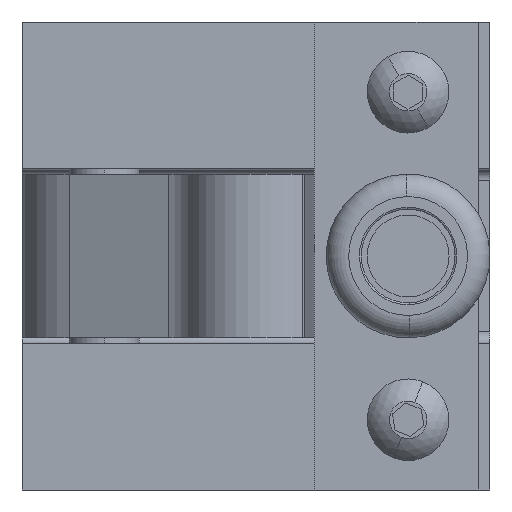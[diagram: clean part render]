
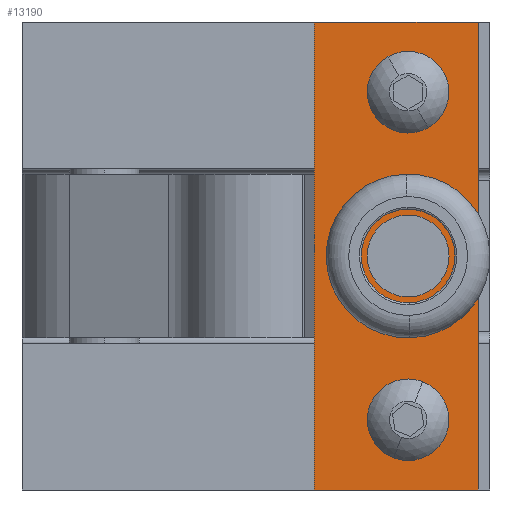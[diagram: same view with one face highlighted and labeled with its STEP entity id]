
A CAD part, left-side view. The second image highlights one B-rep face of the part: STEP entity #13190.
In plain terms, the highlighted planar face has unit normal (-1, 0, 0).
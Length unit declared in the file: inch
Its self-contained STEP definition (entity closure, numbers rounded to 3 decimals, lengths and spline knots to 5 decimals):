
#1901 = DIRECTION ( 'NONE',  ( 0., 0., 1. ) ) ;
#1977 = PLANE ( 'NONE',  #1989 ) ;
#1978 = FACE_OUTER_BOUND ( 'NONE', #13302, .T. ) ;
#1979 = FACE_BOUND ( 'NONE', #13599, .T. ) ;
#1983 = FACE_BOUND ( 'NONE', #13536, .T. ) ;
#1984 = FACE_BOUND ( 'NONE', #13254, .T. ) ;
#1986 = DIRECTION ( 'NONE',  ( -1., 0., 0. ) ) ;
#1988 = CARTESIAN_POINT ( 'NONE',  ( -0.5, 0., -1.25 ) ) ;
#1989 = AXIS2_PLACEMENT_3D ( 'NONE', #1988, #1986, #1901 ) ;
#2089 = DIRECTION ( 'NONE',  ( 0., 0., 1. ) ) ;
#2090 = VECTOR ( 'NONE', #2089, 39.37008 ) ;
#2091 = CARTESIAN_POINT ( 'NONE',  ( -0.5, 0.875, -1.25 ) ) ;
#2092 = LINE ( 'NONE', #2091, #2090 ) ;
#2103 = CARTESIAN_POINT ( 'NONE',  ( -0.5, 0., -1.25 ) ) ;
#2104 = DIRECTION ( 'NONE',  ( 0., 0., 1. ) ) ;
#2105 = VECTOR ( 'NONE', #2104, 39.37008 ) ;
#2106 = CARTESIAN_POINT ( 'NONE',  ( -0.5, 0., -1.25 ) ) ;
#2107 = LINE ( 'NONE', #2106, #2105 ) ;
#2108 = CARTESIAN_POINT ( 'NONE',  ( -0.5, 0., 1.25 ) ) ;
#2123 = DIRECTION ( 'NONE',  ( 0., 0., 1. ) ) ;
#2124 = DIRECTION ( 'NONE',  ( -1., 0., 0. ) ) ;
#2125 = AXIS2_PLACEMENT_3D ( 'NONE', #2184, #2124, #2123 ) ;
#2126 = CIRCLE ( 'NONE', #2125, 0.14062 ) ;
#2133 = DIRECTION ( 'NONE',  ( 0., -1., 0. ) ) ;
#2134 = VECTOR ( 'NONE', #2133, 39.37008 ) ;
#2135 = CARTESIAN_POINT ( 'NONE',  ( -0.5, 0., 1.25 ) ) ;
#2136 = LINE ( 'NONE', #2135, #2134 ) ;
#2138 = DIRECTION ( 'NONE',  ( 0., -1., 0. ) ) ;
#2139 = VECTOR ( 'NONE', #2138, 39.37008 ) ;
#2140 = CARTESIAN_POINT ( 'NONE',  ( -0.5, 0., -1.25 ) ) ;
#2144 = LINE ( 'NONE', #2140, #2139 ) ;
#2184 = CARTESIAN_POINT ( 'NONE',  ( -0.5, 0.375, 0.875 ) ) ;
#2197 = CARTESIAN_POINT ( 'NONE',  ( -0.5, 0.875, -1.25 ) ) ;
#2463 = CIRCLE ( 'NONE', #2569, 0.14062 ) ;
#2498 = DIRECTION ( 'NONE',  ( 0., 0., 1. ) ) ;
#2499 = DIRECTION ( 'NONE',  ( -1., 0., 0. ) ) ;
#2500 = AXIS2_PLACEMENT_3D ( 'NONE', #2505, #2499, #2498 ) ;
#2501 = CIRCLE ( 'NONE', #2500, 0.21875 ) ;
#2505 = CARTESIAN_POINT ( 'NONE',  ( -0.5, 0.375, 0. ) ) ;
#2532 = CARTESIAN_POINT ( 'NONE',  ( -0.5, 0.875, 1.25 ) ) ;
#2549 = DIRECTION ( 'NONE',  ( 0., 0., 1. ) ) ;
#2550 = DIRECTION ( 'NONE',  ( -1., 0., 0. ) ) ;
#2551 = CARTESIAN_POINT ( 'NONE',  ( -0.5, 0.375, -0.875 ) ) ;
#2569 = AXIS2_PLACEMENT_3D ( 'NONE', #2551, #2550, #2549 ) ;
#4961 = CARTESIAN_POINT ( 'NONE',  ( -0.5, 0.375, -0.21875 ) ) ;
#5059 = CARTESIAN_POINT ( 'NONE',  ( -0.5, 0.375, 0.21875 ) ) ;
#5060 = DIRECTION ( 'NONE',  ( 0., 0., 1. ) ) ;
#5061 = DIRECTION ( 'NONE',  ( -1., 0., 0. ) ) ;
#5062 = CARTESIAN_POINT ( 'NONE',  ( -0.5, 0.375, 0. ) ) ;
#5063 = AXIS2_PLACEMENT_3D ( 'NONE', #5062, #5061, #5060 ) ;
#5064 = CIRCLE ( 'NONE', #5063, 0.21875 ) ;
#5585 = CARTESIAN_POINT ( 'NONE',  ( -0.5, 0.375, 1.01562 ) ) ;
#5857 = CARTESIAN_POINT ( 'NONE',  ( -0.5, 0.375, 0.73438 ) ) ;
#5884 = DIRECTION ( 'NONE',  ( 0., 0., 1. ) ) ;
#5885 = DIRECTION ( 'NONE',  ( -1., 0., 0. ) ) ;
#5886 = CARTESIAN_POINT ( 'NONE',  ( -0.5, 0.375, 0.875 ) ) ;
#5887 = AXIS2_PLACEMENT_3D ( 'NONE', #5886, #5885, #5884 ) ;
#5888 = CIRCLE ( 'NONE', #5887, 0.14062 ) ;
#5921 = CARTESIAN_POINT ( 'NONE',  ( -0.5, 0.375, -0.73438 ) ) ;
#5922 = DIRECTION ( 'NONE',  ( 0., 0., 1. ) ) ;
#5923 = DIRECTION ( 'NONE',  ( -1., 0., 0. ) ) ;
#5924 = CARTESIAN_POINT ( 'NONE',  ( -0.5, 0.375, -0.875 ) ) ;
#5925 = AXIS2_PLACEMENT_3D ( 'NONE', #5924, #5923, #5922 ) ;
#6027 = CIRCLE ( 'NONE', #5925, 0.14062 ) ;
#6028 = CARTESIAN_POINT ( 'NONE',  ( -0.5, 0.375, -1.01563 ) ) ;
#13190 = ADVANCED_FACE ( 'NONE', ( #1984, #1983, #1979, #1978 ), #1977, .T. ) ;
#13236 = VERTEX_POINT ( 'NONE', #2197 ) ;
#13242 = ORIENTED_EDGE ( 'NONE', *, *, #13244, .F. ) ;
#13244 = EDGE_CURVE ( 'NONE', #14953, #15064, #2126, .T. ) ;
#13247 = EDGE_CURVE ( 'NONE', #13236, #13479, #2092, .T. ) ;
#13254 = EDGE_LOOP ( 'NONE', ( #13531, #13535 ) ) ;
#13300 = ORIENTED_EDGE ( 'NONE', *, *, #15020, .F. ) ;
#13302 = EDGE_LOOP ( 'NONE', ( #13306, #13308, #13312, #13314 ) ) ;
#13306 = ORIENTED_EDGE ( 'NONE', *, *, #13330, .T. ) ;
#13308 = ORIENTED_EDGE ( 'NONE', *, *, #13310, .F. ) ;
#13310 = EDGE_CURVE ( 'NONE', #13479, #13324, #2136, .T. ) ;
#13312 = ORIENTED_EDGE ( 'NONE', *, *, #13247, .F. ) ;
#13314 = ORIENTED_EDGE ( 'NONE', *, *, #13317, .T. ) ;
#13317 = EDGE_CURVE ( 'NONE', #13236, #13332, #2144, .T. ) ;
#13324 = VERTEX_POINT ( 'NONE', #2108 ) ;
#13330 = EDGE_CURVE ( 'NONE', #13332, #13324, #2107, .T. ) ;
#13332 = VERTEX_POINT ( 'NONE', #2103 ) ;
#13479 = VERTEX_POINT ( 'NONE', #2532 ) ;
#13531 = ORIENTED_EDGE ( 'NONE', *, *, #13533, .F. ) ;
#13533 = EDGE_CURVE ( 'NONE', #14771, #14768, #2501, .T. ) ;
#13535 = ORIENTED_EDGE ( 'NONE', *, *, #14770, .F. ) ;
#13536 = EDGE_LOOP ( 'NONE', ( #13242, #13597 ) ) ;
#13597 = ORIENTED_EDGE ( 'NONE', *, *, #15066, .F. ) ;
#13599 = EDGE_LOOP ( 'NONE', ( #13601, #13300 ) ) ;
#13601 = ORIENTED_EDGE ( 'NONE', *, *, #13602, .F. ) ;
#13602 = EDGE_CURVE ( 'NONE', #15021, #15018, #2463, .T. ) ;
#14768 = VERTEX_POINT ( 'NONE', #4961 ) ;
#14770 = EDGE_CURVE ( 'NONE', #14768, #14771, #5064, .T. ) ;
#14771 = VERTEX_POINT ( 'NONE', #5059 ) ;
#14953 = VERTEX_POINT ( 'NONE', #5585 ) ;
#15018 = VERTEX_POINT ( 'NONE', #6028 ) ;
#15020 = EDGE_CURVE ( 'NONE', #15018, #15021, #6027, .T. ) ;
#15021 = VERTEX_POINT ( 'NONE', #5921 ) ;
#15064 = VERTEX_POINT ( 'NONE', #5857 ) ;
#15066 = EDGE_CURVE ( 'NONE', #15064, #14953, #5888, .T. ) ;
